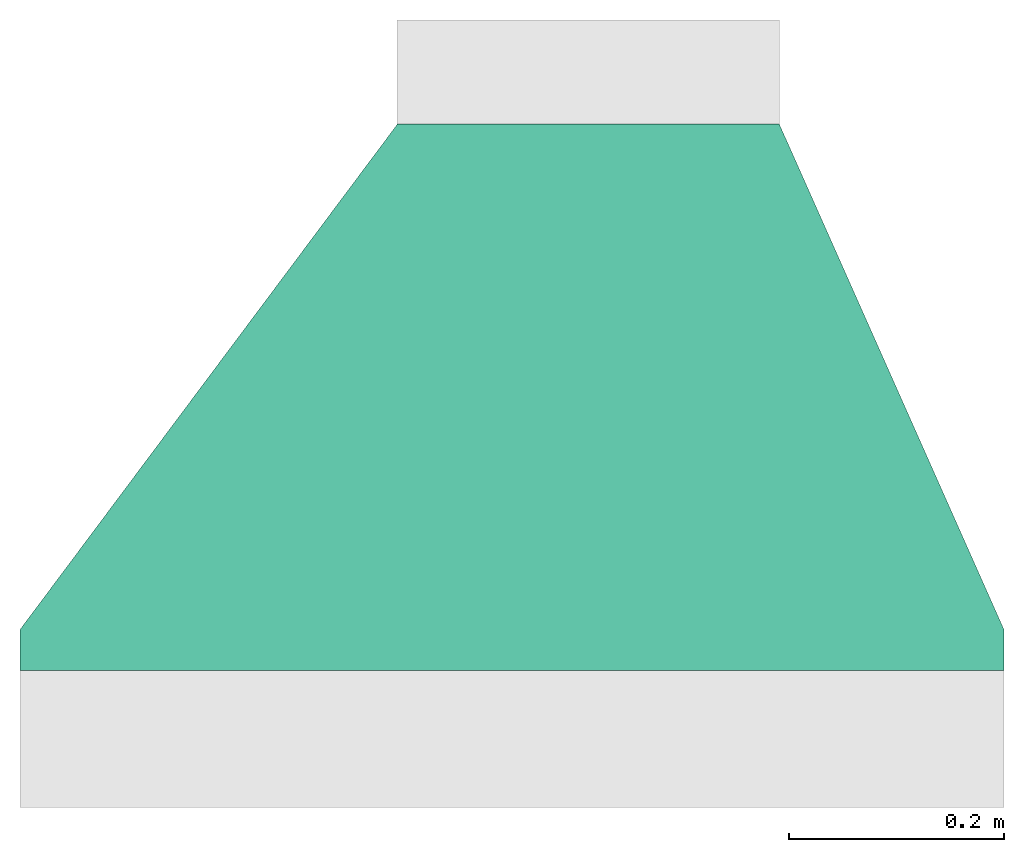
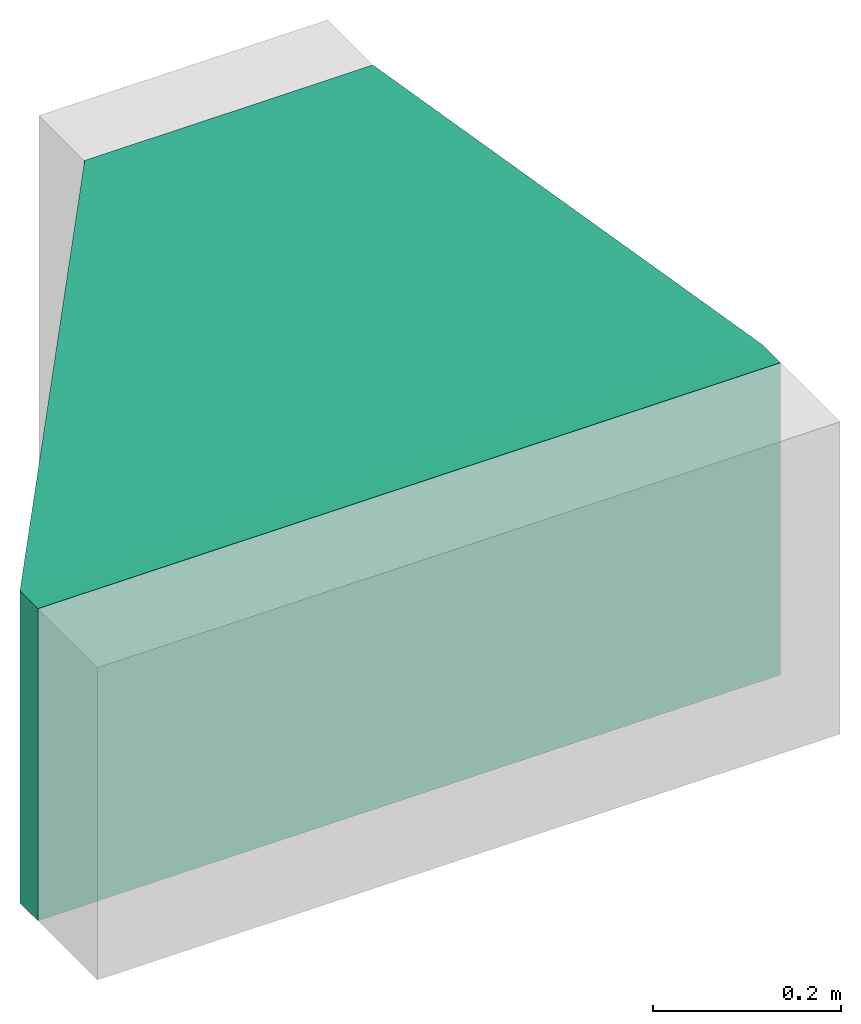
# One storey, part 2 of 2: 1 duct fitting.
"""IFC4 building model written with IfcOpenShell, lengths in feet."""

from ifc_helpers import new_model, entity, si_unit, converted_unit, derived_unit, direction, frame, origin, place, context, subcontext, project, spatial, source, transform, mapped, type_object, type_shapes, element, save


model = new_model("IFC4")

# Units and contexts
model_context = context("Model", 3, precision=0.0001, world=origin(), true_north=direction((6.12303176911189e-17, 1.0)))
body_context = subcontext(model_context, "Body", "Model", "MODEL_VIEW")
ifc_project = project(units=[converted_unit("LENGTHUNIT", "FOOT", entity("IfcRatioMeasure", 0.3048), si_unit("LENGTHUNIT", "METRE"), dimensions=[1, 0, 0, 0, 0, 0, 0]), converted_unit("AREAUNIT", "SQUARE FOOT", entity("IfcRatioMeasure", 0.09290304), si_unit("AREAUNIT", "SQUARE_METRE"), dimensions=[2, 0, 0, 0, 0, 0, 0]), converted_unit("VOLUMEUNIT", "CUBIC FOOT", entity("IfcRatioMeasure", 0.028316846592), si_unit("VOLUMEUNIT", "CUBIC_METRE"), dimensions=[3, 0, 0, 0, 0, 0, 0]), converted_unit("PLANEANGLEUNIT", "DEGREE", entity("IfcRatioMeasure", 0.0174532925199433), si_unit("PLANEANGLEUNIT", "RADIAN"), dimensions=[0, 0, 0, 0, 0, 0, 0]), si_unit("MASSUNIT", "GRAM", prefix="KILO"), derived_unit("MASSDENSITYUNIT", [(si_unit("MASSUNIT", "GRAM", prefix="KILO"), 1), (si_unit("LENGTHUNIT", "METRE"), -3)]), si_unit("TIMEUNIT", "SECOND"), si_unit("FREQUENCYUNIT", "HERTZ"), si_unit("THERMODYNAMICTEMPERATUREUNIT", "DEGREE_CELSIUS"), derived_unit("THERMALTRANSMITTANCEUNIT", [(si_unit("MASSUNIT", "GRAM", prefix="KILO"), 1), (si_unit("THERMODYNAMICTEMPERATUREUNIT", "KELVIN"), -1), (si_unit("TIMEUNIT", "SECOND"), -3)]), derived_unit("VOLUMETRICFLOWRATEUNIT", [(si_unit("LENGTHUNIT", "METRE"), 3), (si_unit("TIMEUNIT", "SECOND"), -1)]), si_unit("ELECTRICCURRENTUNIT", "AMPERE"), si_unit("ELECTRICVOLTAGEUNIT", "VOLT"), si_unit("POWERUNIT", "WATT"), si_unit("FORCEUNIT", "NEWTON"), si_unit("ILLUMINANCEUNIT", "LUX"), si_unit("LUMINOUSFLUXUNIT", "LUMEN"), si_unit("LUMINOUSINTENSITYUNIT", "CANDELA"), derived_unit("USERDEFINED", [(si_unit("MASSUNIT", "GRAM", prefix="KILO"), -1), (si_unit("LENGTHUNIT", "METRE"), -2), (si_unit("TIMEUNIT", "SECOND"), 3), (si_unit("LUMINOUSFLUXUNIT", "LUMEN"), 1)]), derived_unit("LINEARVELOCITYUNIT", [(si_unit("LENGTHUNIT", "METRE"), 1), (si_unit("TIMEUNIT", "SECOND"), -1)]), si_unit("PRESSUREUNIT", "PASCAL"), derived_unit("USERDEFINED", [(si_unit("LENGTHUNIT", "METRE"), -2), (si_unit("MASSUNIT", "GRAM", prefix="KILO"), 1), (si_unit("TIMEUNIT", "SECOND"), -2)])], contexts=[model_context])

# Site, building, storey
site_placement = place(None, origin())
site = spatial("IfcSite", under=ifc_project, at=site_placement, Name="Default", CompositionType="ELEMENT")
building_placement = place(site_placement, origin())
building = spatial("IfcBuilding", under=site, at=building_placement, CompositionType="ELEMENT")
storey_placement = place(building_placement, frame((0.0, 0.0, 24.0)))
storey = spatial("IfcBuildingStorey", under=building, at=storey_placement, Name="Level 3", CompositionType="ELEMENT", Elevation=24.0000000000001)

# Duct fitting
duct_fitting_type = type_object("IfcDuctFittingType", Name="Standard", PredefinedType="NOTDEFINED")
cartesian_point_1 = entity("IfcCartesianPoint", [1.66666666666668, 0.350824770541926, -1.16666666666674])
vertex_point_1 = entity("IfcVertexPoint", cartesian_point_1)
cartesian_point_2 = entity("IfcCartesianPoint", [1.6666666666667, 0.350824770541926, 1.1666666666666])
vertex_point_2 = entity("IfcVertexPoint", cartesian_point_2)
ifc_direction_1 = entity("IfcDirection", [0.0, 0.0, 1.0])
edge_curve_1 = entity("IfcEdgeCurve", vertex_point_1, vertex_point_2, entity("IfcTrimmedCurve", entity("IfcLine", cartesian_point_1, entity("IfcVector", ifc_direction_1, 1.0)), [cartesian_point_1], [cartesian_point_2], True, "CARTESIAN"), True)
cartesian_point_3 = entity("IfcCartesianPoint", [1.6666666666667, -0.815841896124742, 1.1666666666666])
vertex_point_3 = entity("IfcVertexPoint", cartesian_point_3)
ifc_direction_2 = entity("IfcDirection", [0.0, -1.0, 0.0])
edge_curve_2 = entity("IfcEdgeCurve", vertex_point_2, vertex_point_3, entity("IfcTrimmedCurve", entity("IfcLine", cartesian_point_2, entity("IfcVector", ifc_direction_2, 1.0)), [cartesian_point_2], [cartesian_point_3], True, "CARTESIAN"), True)
cartesian_point_4 = entity("IfcCartesianPoint", [1.66666666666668, -0.815841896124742, -1.16666666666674])
vertex_point_4 = entity("IfcVertexPoint", cartesian_point_4)
ifc_direction_3 = entity("IfcDirection", [0.0, 0.0, -1.0])
edge_curve_3 = entity("IfcEdgeCurve", vertex_point_3, vertex_point_4, entity("IfcTrimmedCurve", entity("IfcLine", cartesian_point_3, entity("IfcVector", ifc_direction_3, 1.0)), [cartesian_point_3], [cartesian_point_4], True, "CARTESIAN"), True)
ifc_direction_4 = entity("IfcDirection", [0.0, 1.0, 0.0])
edge_curve_4 = entity("IfcEdgeCurve", vertex_point_4, vertex_point_1, entity("IfcTrimmedCurve", entity("IfcLine", cartesian_point_4, entity("IfcVector", ifc_direction_4, 1.0)), [cartesian_point_4], [cartesian_point_1], True, "CARTESIAN"), True)
ifc_direction_5 = entity("IfcDirection", [1.0, 0.0, 0.0])
cartesian_point_5 = entity("IfcCartesianPoint", [1.66406250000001, 0.350824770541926, -1.16666666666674])
vertex_point_5 = entity("IfcVertexPoint", cartesian_point_5)
cartesian_point_6 = entity("IfcCartesianPoint", [1.66406250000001, -0.815841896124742, -1.16666666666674])
vertex_point_6 = entity("IfcVertexPoint", cartesian_point_6)
edge_curve_5 = entity("IfcEdgeCurve", vertex_point_5, vertex_point_6, entity("IfcTrimmedCurve", entity("IfcLine", cartesian_point_5, entity("IfcVector", ifc_direction_2, 1.0)), [cartesian_point_5], [cartesian_point_6], True, "CARTESIAN"), True)
cartesian_point_7 = entity("IfcCartesianPoint", [1.66406250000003, -0.815841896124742, 1.1666666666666])
vertex_point_7 = entity("IfcVertexPoint", cartesian_point_7)
edge_curve_6 = entity("IfcEdgeCurve", vertex_point_6, vertex_point_7, entity("IfcTrimmedCurve", entity("IfcLine", cartesian_point_6, entity("IfcVector", ifc_direction_1, 1.0)), [cartesian_point_6], [cartesian_point_7], True, "CARTESIAN"), True)
cartesian_point_8 = entity("IfcCartesianPoint", [1.66406250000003, 0.350824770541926, 1.1666666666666])
vertex_point_8 = entity("IfcVertexPoint", cartesian_point_8)
edge_curve_7 = entity("IfcEdgeCurve", vertex_point_7, vertex_point_8, entity("IfcTrimmedCurve", entity("IfcLine", cartesian_point_7, entity("IfcVector", ifc_direction_4, 1.0)), [cartesian_point_7], [cartesian_point_8], True, "CARTESIAN"), True)
edge_curve_8 = entity("IfcEdgeCurve", vertex_point_8, vertex_point_5, entity("IfcTrimmedCurve", entity("IfcLine", cartesian_point_8, entity("IfcVector", ifc_direction_3, 1.0)), [cartesian_point_8], [cartesian_point_5], True, "CARTESIAN"), True)
ifc_direction_6 = entity("IfcDirection", [-1.0, 0.0, 0.0])
edge_curve_9 = entity("IfcEdgeCurve", vertex_point_1, vertex_point_5, entity("IfcTrimmedCurve", entity("IfcLine", cartesian_point_1, entity("IfcVector", ifc_direction_6, 1.0)), [cartesian_point_1], [cartesian_point_5], True, "CARTESIAN"), True)
edge_curve_10 = entity("IfcEdgeCurve", vertex_point_8, vertex_point_2, entity("IfcTrimmedCurve", entity("IfcLine", cartesian_point_2, entity("IfcVector", ifc_direction_5, 1.0)), [cartesian_point_8], [cartesian_point_2], True, "CARTESIAN"), True)
edge_curve_11 = entity("IfcEdgeCurve", vertex_point_7, vertex_point_3, entity("IfcTrimmedCurve", entity("IfcLine", cartesian_point_3, entity("IfcVector", ifc_direction_5, 1.0)), [cartesian_point_7], [cartesian_point_3], True, "CARTESIAN"), True)
edge_curve_12 = entity("IfcEdgeCurve", vertex_point_6, vertex_point_4, entity("IfcTrimmedCurve", entity("IfcLine", cartesian_point_4, entity("IfcVector", ifc_direction_5, 1.0)), [cartesian_point_6], [cartesian_point_4], True, "CARTESIAN"), True)
cartesian_point_9 = entity("IfcCartesianPoint", [0.125000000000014, 1.49999999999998, -0.666666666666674])
vertex_point_9 = entity("IfcVertexPoint", cartesian_point_9)
cartesian_point_10 = entity("IfcCartesianPoint", [0.125000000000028, 1.49999999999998, 0.666666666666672])
vertex_point_10 = entity("IfcVertexPoint", cartesian_point_10)
ifc_direction_7 = entity("IfcDirection", [0.0, 0.0, 1.0])
edge_curve_13 = entity("IfcEdgeCurve", vertex_point_9, vertex_point_10, entity("IfcTrimmedCurve", entity("IfcLine", cartesian_point_9, entity("IfcVector", ifc_direction_7, 1.0)), [cartesian_point_9], [cartesian_point_10], True, "CARTESIAN"), True)
cartesian_point_11 = entity("IfcCartesianPoint", [0.125000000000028, -1.50000000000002, 0.666666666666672])
vertex_point_11 = entity("IfcVertexPoint", cartesian_point_11)
ifc_direction_8 = entity("IfcDirection", [0.0, -1.0, 0.0])
edge_curve_14 = entity("IfcEdgeCurve", vertex_point_10, vertex_point_11, entity("IfcTrimmedCurve", entity("IfcLine", cartesian_point_10, entity("IfcVector", ifc_direction_8, 1.0)), [cartesian_point_10], [cartesian_point_11], True, "CARTESIAN"), True)
cartesian_point_12 = entity("IfcCartesianPoint", [0.125000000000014, -1.50000000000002, -0.666666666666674])
vertex_point_12 = entity("IfcVertexPoint", cartesian_point_12)
ifc_direction_9 = entity("IfcDirection", [0.0, 0.0, -1.0])
edge_curve_15 = entity("IfcEdgeCurve", vertex_point_11, vertex_point_12, entity("IfcTrimmedCurve", entity("IfcLine", cartesian_point_11, entity("IfcVector", ifc_direction_9, 1.0)), [cartesian_point_11], [cartesian_point_12], True, "CARTESIAN"), True)
ifc_direction_10 = entity("IfcDirection", [0.0, 1.0, 0.0])
edge_curve_16 = entity("IfcEdgeCurve", vertex_point_12, vertex_point_9, entity("IfcTrimmedCurve", entity("IfcLine", cartesian_point_12, entity("IfcVector", ifc_direction_10, 1.0)), [cartesian_point_12], [cartesian_point_9], True, "CARTESIAN"), True)
ifc_direction_11 = entity("IfcDirection", [1.0, 0.0, 0.0])
cartesian_point_13 = entity("IfcCartesianPoint", [0.0, 1.49999999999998, -0.666666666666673])
vertex_point_13 = entity("IfcVertexPoint", cartesian_point_13)
cartesian_point_14 = entity("IfcCartesianPoint", [0.0, -1.50000000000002, -0.666666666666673])
vertex_point_14 = entity("IfcVertexPoint", cartesian_point_14)
edge_curve_17 = entity("IfcEdgeCurve", vertex_point_13, vertex_point_14, entity("IfcTrimmedCurve", entity("IfcLine", cartesian_point_13, entity("IfcVector", ifc_direction_8, 1.0)), [cartesian_point_13], [cartesian_point_14], True, "CARTESIAN"), True)
cartesian_point_15 = entity("IfcCartesianPoint", [0.0, -1.50000000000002, 0.666666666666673])
vertex_point_15 = entity("IfcVertexPoint", cartesian_point_15)
edge_curve_18 = entity("IfcEdgeCurve", vertex_point_14, vertex_point_15, entity("IfcTrimmedCurve", entity("IfcLine", cartesian_point_14, entity("IfcVector", ifc_direction_7, 1.0)), [cartesian_point_14], [cartesian_point_15], True, "CARTESIAN"), True)
cartesian_point_16 = entity("IfcCartesianPoint", [0.0, 1.49999999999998, 0.666666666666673])
vertex_point_16 = entity("IfcVertexPoint", cartesian_point_16)
edge_curve_19 = entity("IfcEdgeCurve", vertex_point_15, vertex_point_16, entity("IfcTrimmedCurve", entity("IfcLine", cartesian_point_15, entity("IfcVector", ifc_direction_10, 1.0)), [cartesian_point_15], [cartesian_point_16], True, "CARTESIAN"), True)
edge_curve_20 = entity("IfcEdgeCurve", vertex_point_16, vertex_point_13, entity("IfcTrimmedCurve", entity("IfcLine", cartesian_point_16, entity("IfcVector", ifc_direction_9, 1.0)), [cartesian_point_16], [cartesian_point_13], True, "CARTESIAN"), True)
ifc_direction_12 = entity("IfcDirection", [-1.0, 0.0, 0.0])
edge_curve_21 = entity("IfcEdgeCurve", vertex_point_9, vertex_point_13, entity("IfcTrimmedCurve", entity("IfcLine", cartesian_point_9, entity("IfcVector", ifc_direction_12, 1.0)), [cartesian_point_9], [cartesian_point_13], True, "CARTESIAN"), True)
edge_curve_22 = entity("IfcEdgeCurve", vertex_point_16, vertex_point_10, entity("IfcTrimmedCurve", entity("IfcLine", cartesian_point_10, entity("IfcVector", ifc_direction_11, 1.0)), [cartesian_point_16], [cartesian_point_10], True, "CARTESIAN"), True)
edge_curve_23 = entity("IfcEdgeCurve", vertex_point_15, vertex_point_11, entity("IfcTrimmedCurve", entity("IfcLine", cartesian_point_11, entity("IfcVector", ifc_direction_11, 1.0)), [cartesian_point_15], [cartesian_point_11], True, "CARTESIAN"), True)
edge_curve_24 = entity("IfcEdgeCurve", vertex_point_14, vertex_point_12, entity("IfcTrimmedCurve", entity("IfcLine", cartesian_point_12, entity("IfcVector", ifc_direction_11, 1.0)), [cartesian_point_14], [cartesian_point_12], True, "CARTESIAN"), True)
cartesian_point_17 = entity("IfcCartesianPoint", [0.125000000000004, 1.49999999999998, 0.666666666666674])
vertex_point_17 = entity("IfcVertexPoint", cartesian_point_17)
cartesian_point_18 = entity("IfcCartesianPoint", [0.125000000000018, 1.49999999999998, -0.666666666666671])
vertex_point_18 = entity("IfcVertexPoint", cartesian_point_18)
ifc_direction_13 = entity("IfcDirection", [0.0, 0.0, -1.0])
edge_curve_25 = entity("IfcEdgeCurve", vertex_point_17, vertex_point_18, entity("IfcTrimmedCurve", entity("IfcLine", cartesian_point_18, entity("IfcVector", ifc_direction_13, 1.0)), [cartesian_point_17], [cartesian_point_18], True, "CARTESIAN"), True)
cartesian_point_19 = entity("IfcCartesianPoint", [0.125000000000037, -1.50000000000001, -0.666666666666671])
vertex_point_19 = entity("IfcVertexPoint", cartesian_point_19)
ifc_direction_14 = entity("IfcDirection", [0.0, -1.0, 0.0])
edge_curve_26 = entity("IfcEdgeCurve", vertex_point_18, vertex_point_19, entity("IfcTrimmedCurve", entity("IfcLine", cartesian_point_19, entity("IfcVector", ifc_direction_14, 1.0)), [cartesian_point_18], [cartesian_point_19], True, "CARTESIAN"), True)
cartesian_point_20 = entity("IfcCartesianPoint", [0.125000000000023, -1.50000000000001, 0.666666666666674])
vertex_point_20 = entity("IfcVertexPoint", cartesian_point_20)
ifc_direction_15 = entity("IfcDirection", [0.0, 0.0, 1.0])
edge_curve_27 = entity("IfcEdgeCurve", vertex_point_19, vertex_point_20, entity("IfcTrimmedCurve", entity("IfcLine", cartesian_point_20, entity("IfcVector", ifc_direction_15, 1.0)), [cartesian_point_19], [cartesian_point_20], True, "CARTESIAN"), True)
ifc_direction_16 = entity("IfcDirection", [0.0, 1.0, 0.0])
edge_curve_28 = entity("IfcEdgeCurve", vertex_point_20, vertex_point_17, entity("IfcTrimmedCurve", entity("IfcLine", cartesian_point_17, entity("IfcVector", ifc_direction_16, 1.0)), [cartesian_point_20], [cartesian_point_17], True, "CARTESIAN"), True)
cartesian_point_21 = entity("IfcCartesianPoint", [1.66406250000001, 0.350824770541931, 1.16666666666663])
vertex_point_21 = entity("IfcVertexPoint", cartesian_point_21)
cartesian_point_22 = entity("IfcCartesianPoint", [1.66406250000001, -0.815841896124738, 1.16666666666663])
vertex_point_22 = entity("IfcVertexPoint", cartesian_point_22)
edge_curve_29 = entity("IfcEdgeCurve", vertex_point_21, vertex_point_22, entity("IfcTrimmedCurve", entity("IfcLine", cartesian_point_22, entity("IfcVector", ifc_direction_14, 1.0)), [cartesian_point_21], [cartesian_point_22], True, "CARTESIAN"), True)
cartesian_point_23 = entity("IfcCartesianPoint", [1.66406250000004, -0.815841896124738, -1.1666666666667])
vertex_point_23 = entity("IfcVertexPoint", cartesian_point_23)
edge_curve_30 = entity("IfcEdgeCurve", vertex_point_22, vertex_point_23, entity("IfcTrimmedCurve", entity("IfcLine", cartesian_point_23, entity("IfcVector", ifc_direction_13, 1.0)), [cartesian_point_22], [cartesian_point_23], True, "CARTESIAN"), True)
cartesian_point_24 = entity("IfcCartesianPoint", [1.66406250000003, 0.350824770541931, -1.1666666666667])
vertex_point_24 = entity("IfcVertexPoint", cartesian_point_24)
edge_curve_31 = entity("IfcEdgeCurve", vertex_point_23, vertex_point_24, entity("IfcTrimmedCurve", entity("IfcLine", cartesian_point_24, entity("IfcVector", ifc_direction_16, 1.0)), [cartesian_point_23], [cartesian_point_24], True, "CARTESIAN"), True)
edge_curve_32 = entity("IfcEdgeCurve", vertex_point_24, vertex_point_21, entity("IfcTrimmedCurve", entity("IfcLine", cartesian_point_21, entity("IfcVector", ifc_direction_15, 1.0)), [cartesian_point_24], [cartesian_point_21], True, "CARTESIAN"), True)
edge_curve_33 = entity("IfcEdgeCurve", vertex_point_24, vertex_point_18, entity("IfcTrimmedCurve", entity("IfcLine", cartesian_point_24, entity("IfcVector", entity("IfcDirection", [-0.775435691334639, 0.578996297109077, 0.251918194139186]), 1.0)), [cartesian_point_24], [cartesian_point_18], True, "CARTESIAN"), True)
edge_curve_34 = entity("IfcEdgeCurve", vertex_point_17, vertex_point_21, entity("IfcTrimmedCurve", entity("IfcLine", cartesian_point_17, entity("IfcVector", entity("IfcDirection", [0.775435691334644, -0.578996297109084, 0.251918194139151]), 1.0)), [cartesian_point_17], [cartesian_point_21], True, "CARTESIAN"), True)
edge_curve_35 = entity("IfcEdgeCurve", vertex_point_23, vertex_point_19, entity("IfcTrimmedCurve", entity("IfcLine", cartesian_point_23, entity("IfcVector", entity("IfcDirection", [-0.875997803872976, -0.38940653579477, 0.284588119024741]), 1.0)), [cartesian_point_23], [cartesian_point_19], True, "CARTESIAN"), True)
edge_curve_36 = entity("IfcEdgeCurve", vertex_point_22, vertex_point_20, entity("IfcTrimmedCurve", entity("IfcLine", cartesian_point_22, entity("IfcVector", entity("IfcDirection", [-0.875997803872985, -0.389406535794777, -0.284588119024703]), 1.0)), [cartesian_point_22], [cartesian_point_20], True, "CARTESIAN"), True)
shared_shape = source(origin(), body_context, "Body", "AdvancedBrep", [
    entity("IfcAdvancedBrep", entity("IfcClosedShell", [entity("IfcAdvancedFace", [entity("IfcFaceOuterBound", entity("IfcEdgeLoop", [entity("IfcOrientedEdge", None, None, edge_curve_1, True), entity("IfcOrientedEdge", None, None, edge_curve_2, True), entity("IfcOrientedEdge", None, None, edge_curve_3, True), entity("IfcOrientedEdge", None, None, edge_curve_4, True)]), True)], entity("IfcPlane", entity("IfcAxis2Placement3D", cartesian_point_1, ifc_direction_5, ifc_direction_1)), True), entity("IfcAdvancedFace", [entity("IfcFaceOuterBound", entity("IfcEdgeLoop", [entity("IfcOrientedEdge", None, None, edge_curve_5, True), entity("IfcOrientedEdge", None, None, edge_curve_6, True), entity("IfcOrientedEdge", None, None, edge_curve_7, True), entity("IfcOrientedEdge", None, None, edge_curve_8, True)]), True)], entity("IfcPlane", entity("IfcAxis2Placement3D", cartesian_point_5, ifc_direction_6, ifc_direction_3)), True), entity("IfcAdvancedFace", [entity("IfcFaceOuterBound", entity("IfcEdgeLoop", [entity("IfcOrientedEdge", None, None, edge_curve_1, False), entity("IfcOrientedEdge", None, None, edge_curve_9, True), entity("IfcOrientedEdge", None, None, edge_curve_8, False), entity("IfcOrientedEdge", None, None, edge_curve_10, True)]), True)], entity("IfcPlane", entity("IfcAxis2Placement3D", cartesian_point_1, ifc_direction_4, ifc_direction_6)), True), entity("IfcAdvancedFace", [entity("IfcFaceOuterBound", entity("IfcEdgeLoop", [entity("IfcOrientedEdge", None, None, edge_curve_2, False), entity("IfcOrientedEdge", None, None, edge_curve_10, False), entity("IfcOrientedEdge", None, None, edge_curve_7, False), entity("IfcOrientedEdge", None, None, edge_curve_11, True)]), True)], entity("IfcPlane", entity("IfcAxis2Placement3D", cartesian_point_2, ifc_direction_1, ifc_direction_6)), True), entity("IfcAdvancedFace", [entity("IfcFaceOuterBound", entity("IfcEdgeLoop", [entity("IfcOrientedEdge", None, None, edge_curve_3, False), entity("IfcOrientedEdge", None, None, edge_curve_11, False), entity("IfcOrientedEdge", None, None, edge_curve_6, False), entity("IfcOrientedEdge", None, None, edge_curve_12, True)]), True)], entity("IfcPlane", entity("IfcAxis2Placement3D", cartesian_point_3, ifc_direction_2, ifc_direction_6)), True), entity("IfcAdvancedFace", [entity("IfcFaceOuterBound", entity("IfcEdgeLoop", [entity("IfcOrientedEdge", None, None, edge_curve_4, False), entity("IfcOrientedEdge", None, None, edge_curve_12, False), entity("IfcOrientedEdge", None, None, edge_curve_5, False), entity("IfcOrientedEdge", None, None, edge_curve_9, False)]), True)], entity("IfcPlane", entity("IfcAxis2Placement3D", cartesian_point_4, ifc_direction_3, ifc_direction_6)), True)])),
    entity("IfcAdvancedBrep", entity("IfcClosedShell", [entity("IfcAdvancedFace", [entity("IfcFaceOuterBound", entity("IfcEdgeLoop", [entity("IfcOrientedEdge", None, None, edge_curve_13, True), entity("IfcOrientedEdge", None, None, edge_curve_14, True), entity("IfcOrientedEdge", None, None, edge_curve_15, True), entity("IfcOrientedEdge", None, None, edge_curve_16, True)]), True)], entity("IfcPlane", entity("IfcAxis2Placement3D", cartesian_point_9, ifc_direction_11, ifc_direction_7)), True), entity("IfcAdvancedFace", [entity("IfcFaceOuterBound", entity("IfcEdgeLoop", [entity("IfcOrientedEdge", None, None, edge_curve_17, True), entity("IfcOrientedEdge", None, None, edge_curve_18, True), entity("IfcOrientedEdge", None, None, edge_curve_19, True), entity("IfcOrientedEdge", None, None, edge_curve_20, True)]), True)], entity("IfcPlane", entity("IfcAxis2Placement3D", cartesian_point_13, ifc_direction_12, ifc_direction_9)), True), entity("IfcAdvancedFace", [entity("IfcFaceOuterBound", entity("IfcEdgeLoop", [entity("IfcOrientedEdge", None, None, edge_curve_13, False), entity("IfcOrientedEdge", None, None, edge_curve_21, True), entity("IfcOrientedEdge", None, None, edge_curve_20, False), entity("IfcOrientedEdge", None, None, edge_curve_22, True)]), True)], entity("IfcPlane", entity("IfcAxis2Placement3D", cartesian_point_9, ifc_direction_10, ifc_direction_12)), True), entity("IfcAdvancedFace", [entity("IfcFaceOuterBound", entity("IfcEdgeLoop", [entity("IfcOrientedEdge", None, None, edge_curve_14, False), entity("IfcOrientedEdge", None, None, edge_curve_22, False), entity("IfcOrientedEdge", None, None, edge_curve_19, False), entity("IfcOrientedEdge", None, None, edge_curve_23, True)]), True)], entity("IfcPlane", entity("IfcAxis2Placement3D", cartesian_point_10, ifc_direction_7, ifc_direction_12)), True), entity("IfcAdvancedFace", [entity("IfcFaceOuterBound", entity("IfcEdgeLoop", [entity("IfcOrientedEdge", None, None, edge_curve_15, False), entity("IfcOrientedEdge", None, None, edge_curve_23, False), entity("IfcOrientedEdge", None, None, edge_curve_18, False), entity("IfcOrientedEdge", None, None, edge_curve_24, True)]), True)], entity("IfcPlane", entity("IfcAxis2Placement3D", cartesian_point_11, ifc_direction_8, ifc_direction_12)), True), entity("IfcAdvancedFace", [entity("IfcFaceOuterBound", entity("IfcEdgeLoop", [entity("IfcOrientedEdge", None, None, edge_curve_16, False), entity("IfcOrientedEdge", None, None, edge_curve_24, False), entity("IfcOrientedEdge", None, None, edge_curve_17, False), entity("IfcOrientedEdge", None, None, edge_curve_21, False)]), True)], entity("IfcPlane", entity("IfcAxis2Placement3D", cartesian_point_12, ifc_direction_9, ifc_direction_12)), True)])),
    entity("IfcAdvancedBrep", entity("IfcClosedShell", [entity("IfcAdvancedFace", [entity("IfcFaceOuterBound", entity("IfcEdgeLoop", [entity("IfcOrientedEdge", None, None, edge_curve_25, True), entity("IfcOrientedEdge", None, None, edge_curve_26, True), entity("IfcOrientedEdge", None, None, edge_curve_27, True), entity("IfcOrientedEdge", None, None, edge_curve_28, True)]), True)], entity("IfcPlane", entity("IfcAxis2Placement3D", entity("IfcCartesianPoint", [0.125000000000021, 0.0, 0.0]), entity("IfcDirection", [-1.0, 0.0, 0.0]), ifc_direction_13)), True), entity("IfcAdvancedFace", [entity("IfcFaceOuterBound", entity("IfcEdgeLoop", [entity("IfcOrientedEdge", None, None, edge_curve_29, True), entity("IfcOrientedEdge", None, None, edge_curve_30, True), entity("IfcOrientedEdge", None, None, edge_curve_31, True), entity("IfcOrientedEdge", None, None, edge_curve_32, True)]), True)], entity("IfcPlane", entity("IfcAxis2Placement3D", entity("IfcCartesianPoint", [1.66406250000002, -0.232508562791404, 0.0]), entity("IfcDirection", [1.0, 0.0, 0.0]), ifc_direction_13)), True), entity("IfcAdvancedFace", [entity("IfcFaceOuterBound", entity("IfcEdgeLoop", [entity("IfcOrientedEdge", None, None, edge_curve_32, False), entity("IfcOrientedEdge", None, None, edge_curve_33, True), entity("IfcOrientedEdge", None, None, edge_curve_25, False), entity("IfcOrientedEdge", None, None, edge_curve_34, True)]), True)], entity("IfcPlane", entity("IfcAxis2Placement3D", entity("IfcCartesianPoint", [1.66406250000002, 0.350824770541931, 0.0]), entity("IfcDirection", [0.598292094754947, 0.801278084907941, 0.0]), ifc_direction_13)), True), entity("IfcAdvancedFace", [entity("IfcFaceOuterBound", entity("IfcEdgeLoop", [entity("IfcOrientedEdge", None, None, edge_curve_31, False), entity("IfcOrientedEdge", None, None, edge_curve_35, True), entity("IfcOrientedEdge", None, None, edge_curve_26, False), entity("IfcOrientedEdge", None, None, edge_curve_33, False)]), True)], entity("IfcPlane", entity("IfcAxis2Placement3D", entity("IfcCartesianPoint", [1.66406250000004, -0.232508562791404, -1.1666666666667]), entity("IfcDirection", [-0.308976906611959, 0.0, -0.951069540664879]), ifc_direction_14)), True), entity("IfcAdvancedFace", [entity("IfcFaceOuterBound", entity("IfcEdgeLoop", [entity("IfcOrientedEdge", None, None, edge_curve_30, False), entity("IfcOrientedEdge", None, None, edge_curve_36, True), entity("IfcOrientedEdge", None, None, edge_curve_27, False), entity("IfcOrientedEdge", None, None, edge_curve_35, False)]), True)], entity("IfcPlane", entity("IfcAxis2Placement3D", entity("IfcCartesianPoint", [1.66406250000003, -0.815841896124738, 0.0]), entity("IfcDirection", [0.406203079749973, -0.913782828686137, 0.0]), ifc_direction_15)), True), entity("IfcAdvancedFace", [entity("IfcFaceOuterBound", entity("IfcEdgeLoop", [entity("IfcOrientedEdge", None, None, edge_curve_29, False), entity("IfcOrientedEdge", None, None, edge_curve_34, False), entity("IfcOrientedEdge", None, None, edge_curve_28, False), entity("IfcOrientedEdge", None, None, edge_curve_36, False)]), True)], entity("IfcPlane", entity("IfcAxis2Placement3D", entity("IfcCartesianPoint", [1.66406250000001, -0.232508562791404, 1.16666666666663]), entity("IfcDirection", [-0.308976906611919, 0.0, 0.951069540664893]), ifc_direction_16)), True)])),
])
type_shapes(duct_fitting_type, [shared_shape])
duct_fitting_placement = place(storey_placement, frame((-38.7569229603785, -1.68449122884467, 154.25), z_axis=(0.0, 0.0, 1.0), x_axis=(0.0, 1.0, 0.0)))
element("IfcDuctFitting", 1, at=duct_fitting_placement, inside=storey, type_object=duct_fitting_type, Name="Rectangular Length Eccentric Transition - DTL:Standard", ObjectType="Rectangular Length Eccentric Transition - DTL:Standard", PredefinedType="NOTDEFINED", context=body_context, shape_type="MappedRepresentation", body=[
    mapped(shared_shape, transform((0.0, 0.0, 0.0), scale=1.0)),
])

save(model, "model.ifc")
